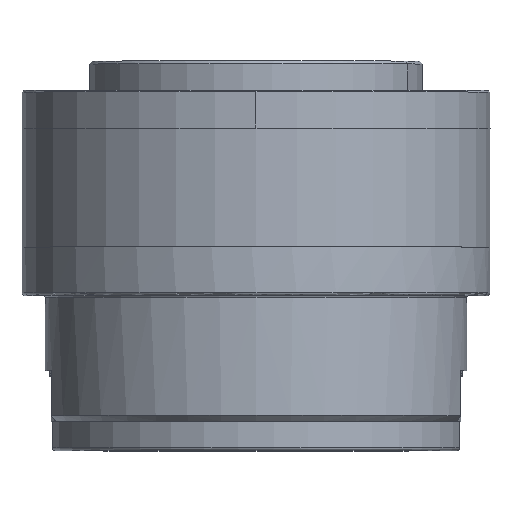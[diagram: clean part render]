
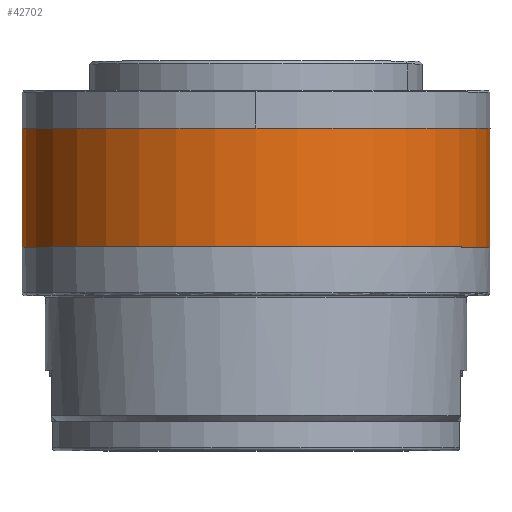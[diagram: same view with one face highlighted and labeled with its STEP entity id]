
A CAD part, top view. The second image highlights one B-rep face of the part: STEP entity #42702.
In plain terms, the highlighted cylindrical face has radius 40 mm (diameter 80 mm), a partial arc.
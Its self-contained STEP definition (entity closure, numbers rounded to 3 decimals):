
#2699 = DIRECTION ( 'NONE',  ( 0., 0., -1. ) ) ;
#4450 = VECTOR ( 'NONE', #12334, 1000. ) ;
#7755 = CARTESIAN_POINT ( 'NONE',  ( -42.686, 34.3, 0. ) ) ;
#7921 = VERTEX_POINT ( 'NONE', #39008 ) ;
#7940 = DIRECTION ( 'NONE',  ( 0., 1., 0. ) ) ;
#12334 = DIRECTION ( 'NONE',  ( 0., 1., 0. ) ) ;
#12988 = VERTEX_POINT ( 'NONE', #63642 ) ;
#15861 = EDGE_CURVE ( 'NONE', #50522, #7921, #62987, .T. ) ;
#16518 = AXIS2_PLACEMENT_3D ( 'NONE', #51544, #39109, #27125 ) ;
#17567 = CIRCLE ( 'NONE', #24328, 40. ) ;
#20914 = DIRECTION ( 'NONE',  ( 0., 1., 0. ) ) ;
#21942 = EDGE_CURVE ( 'NONE', #24676, #12988, #17567, .T. ) ;
#24328 = AXIS2_PLACEMENT_3D ( 'NONE', #51695, #20914, #2699 ) ;
#24676 = VERTEX_POINT ( 'NONE', #7755 ) ;
#25677 = CARTESIAN_POINT ( 'NONE',  ( -2.686, 15.5, 0. ) ) ;
#27125 = DIRECTION ( 'NONE',  ( 0., 0., -1. ) ) ;
#27332 = CYLINDRICAL_SURFACE ( 'NONE', #54046, 40. ) ;
#32307 = FACE_OUTER_BOUND ( 'NONE', #45404, .T. ) ;
#39008 = CARTESIAN_POINT ( 'NONE',  ( -42.686, 14., 0. ) ) ;
#39109 = DIRECTION ( 'NONE',  ( 0., -1., 0. ) ) ;
#42534 = CARTESIAN_POINT ( 'NONE',  ( 37.314, 14., 0. ) ) ;
#42605 = CARTESIAN_POINT ( 'NONE',  ( -42.686, 15.5, 0. ) ) ;
#42702 = ADVANCED_FACE ( 'NONE', ( #32307 ), #27332, .T. ) ;
#45404 = EDGE_LOOP ( 'NONE', ( #75142, #75392, #68448, #54456 ) ) ;
#47144 = EDGE_CURVE ( 'NONE', #7921, #24676, #77340, .T. ) ;
#50522 = VERTEX_POINT ( 'NONE', #42534 ) ;
#51345 = DIRECTION ( 'NONE',  ( 0., 1., 0. ) ) ;
#51544 = CARTESIAN_POINT ( 'NONE',  ( -2.686, 14., 0. ) ) ;
#51695 = CARTESIAN_POINT ( 'NONE',  ( -2.686, 34.3, 0. ) ) ;
#54046 = AXIS2_PLACEMENT_3D ( 'NONE', #25677, #7940, #56719 ) ;
#54456 = ORIENTED_EDGE ( 'NONE', *, *, #47144, .F. ) ;
#56528 = LINE ( 'NONE', #63502, #63148 ) ;
#56719 = DIRECTION ( 'NONE',  ( -1., 0., 0. ) ) ;
#62987 = CIRCLE ( 'NONE', #16518, 40. ) ;
#63148 = VECTOR ( 'NONE', #51345, 1000. ) ;
#63502 = CARTESIAN_POINT ( 'NONE',  ( 37.314, 15.5, 0. ) ) ;
#63642 = CARTESIAN_POINT ( 'NONE',  ( 37.314, 34.3, 0. ) ) ;
#68448 = ORIENTED_EDGE ( 'NONE', *, *, #21942, .F. ) ;
#71511 = EDGE_CURVE ( 'NONE', #50522, #12988, #56528, .T. ) ;
#75142 = ORIENTED_EDGE ( 'NONE', *, *, #15861, .F. ) ;
#75392 = ORIENTED_EDGE ( 'NONE', *, *, #71511, .T. ) ;
#77340 = LINE ( 'NONE', #42605, #4450 ) ;
